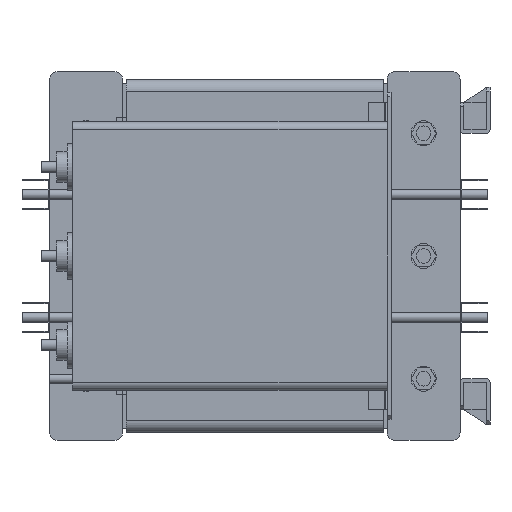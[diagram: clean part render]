
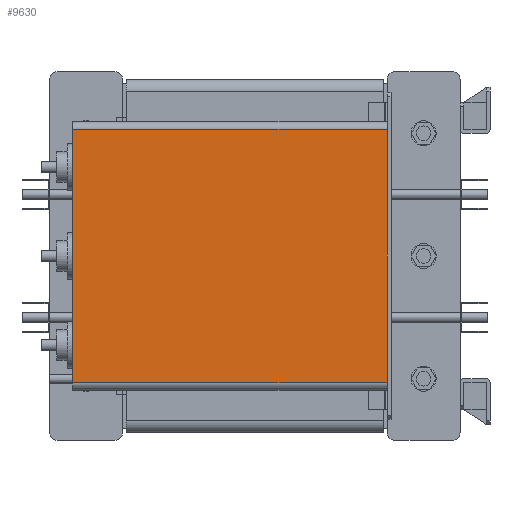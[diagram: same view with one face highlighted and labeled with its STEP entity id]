
A CAD part, left-side view. The second image highlights one B-rep face of the part: STEP entity #9630.
In plain terms, the highlighted planar face has unit normal (-1, 0, 0).
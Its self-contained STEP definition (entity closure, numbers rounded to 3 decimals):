
#1058=FACE_OUTER_BOUND('',#1694,.T.);
#1694=EDGE_LOOP('',(#8121,#8122,#8123,#8124));
#2611=LINE('',#15586,#3627);
#2650=LINE('',#15691,#3666);
#2651=LINE('',#15694,#3667);
#2652=LINE('',#15695,#3668);
#3627=VECTOR('',#12853,10.);
#3666=VECTOR('',#12954,10.);
#3667=VECTOR('',#12957,10.);
#3668=VECTOR('',#12958,10.);
#4498=VERTEX_POINT('',#15583);
#4499=VERTEX_POINT('',#15585);
#4534=VERTEX_POINT('',#15689);
#4535=VERTEX_POINT('',#15693);
#5716=EDGE_CURVE('',#4498,#4499,#2611,.T.);
#5769=EDGE_CURVE('',#4498,#4534,#2650,.T.);
#5770=EDGE_CURVE('',#4535,#4534,#2651,.T.);
#5771=EDGE_CURVE('',#4499,#4535,#2652,.T.);
#8121=ORIENTED_EDGE('',*,*,#5716,.F.);
#8122=ORIENTED_EDGE('',*,*,#5769,.T.);
#8123=ORIENTED_EDGE('',*,*,#5770,.F.);
#8124=ORIENTED_EDGE('',*,*,#5771,.F.);
#9071=PLANE('',#10523);
#9630=ADVANCED_FACE('',(#1058),#9071,.T.);
#10523=AXIS2_PLACEMENT_3D('',#15692,#12955,#12956);
#12853=DIRECTION('',(0.,0.,-1.));
#12954=DIRECTION('',(0.,1.,0.));
#12955=DIRECTION('center_axis',(-1.,0.,0.));
#12956=DIRECTION('ref_axis',(0.,0.,
1.));
#12957=DIRECTION('',(0.,0.,1.));
#12958=DIRECTION('',(0.,1.,0.));
#15583=CARTESIAN_POINT('',(-345.,-5.,165.));
#15585=CARTESIAN_POINT('',(-345.,-5.,-165.));
#15586=CARTESIAN_POINT('',(-345.,-5.,32.5));
#15689=CARTESIAN_POINT('',(-345.,405.,165.));
#15691=CARTESIAN_POINT('',(-345.,-5.,165.));
#15692=CARTESIAN_POINT('Origin',(-345.,-5.,-165.));
#15693=CARTESIAN_POINT('',(-345.,405.,-165.));
#15694=CARTESIAN_POINT('',(-345.,405.,-165.));
#15695=CARTESIAN_POINT('',(-345.,-5.,-165.));
